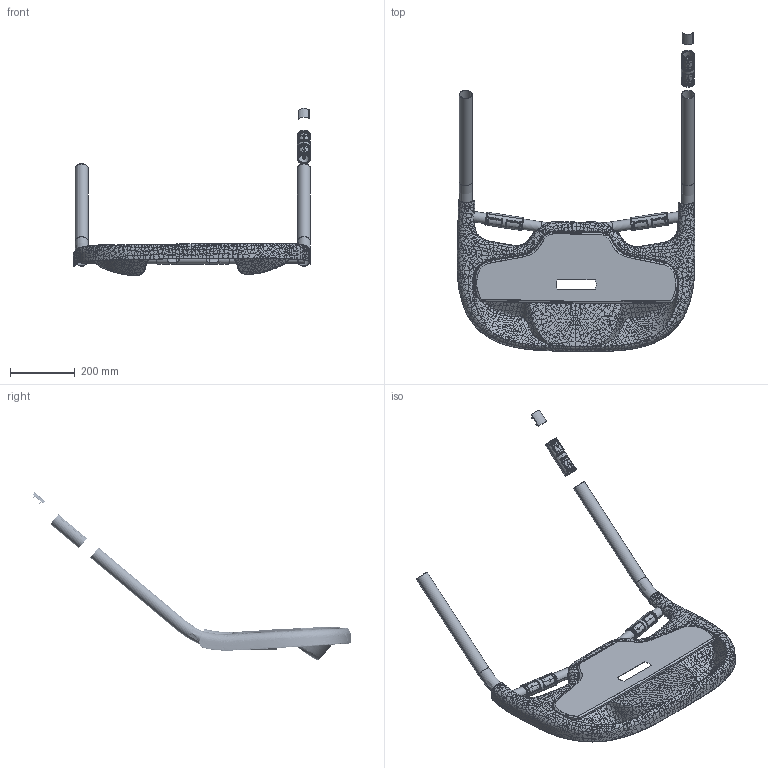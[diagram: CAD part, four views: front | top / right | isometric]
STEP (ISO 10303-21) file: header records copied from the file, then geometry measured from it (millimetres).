
FILE_DESCRIPTION(('CATIA V5 STEP'),'2;1');
FILE_NAME('D:\Documents\1_Travail\1 - ac-limoges.fr\ac-limoges.fr\Emmanuel Maynard - STI2D_Turgot\2 -2I2D\1_SEQUENCE_ Tapis_de_course\Spé_ITEC\Paramètre_Physiologique\S_S_Guidon\0_S_S Guidon.stp','2020-10-14T09:21:51+00:00',('none'),('none'),'CATIA Version 5 Release 19 SP 8 (IN-10)','CATIA V5 STEP AP214','none');
FILE_SCHEMA(('AUTOMOTIVE_DESIGN { 1 0 10303 214 1 1 1 1 }'));
Products named in the file (10): S/S Guidon; Guidon; Platine; Support Electrode_Sup; Support Electrode_Inf; Electrode; Pupitre; Support_lateral_Electrode_Sup; Electrode_laterale; Support_lateral_ Electrode_Inf
Assembly tree (14 placements, depth 2):
  S/S Guidon
    Guidon
    Platine
    Support Electrode_Sup  x2
    Support Electrode_Inf  x2
    Electrode  x4
    Pupitre
    Support_lateral_Electrode_Sup
    Electrode_laterale
    Support_lateral_ Electrode_Inf
Bounding box: 733.03 x 982.63 x 516.1 mm (x, y, z)
Volume: 1019961.3 mm3; surface area: 1367124.2 mm2
Topology: 14 solids, 14 shells, 7081 faces, 15714 edges, 8675 vertices
Faces by surface type: bspline 5374, plane 1137, cylinder 494, cone 40, torus 36
Entity records: 964764 total; most frequent: CARTESIAN_POINT 867214, ORIENTED_EDGE 28168, EDGE_CURVE 14084, B_SPLINE_CURVE_WITH_KNOTS 11107, VERTEX_POINT 7582, EDGE_LOOP 6634, ADVANCED_FACE 6525, FACE_OUTER_BOUND 6525
